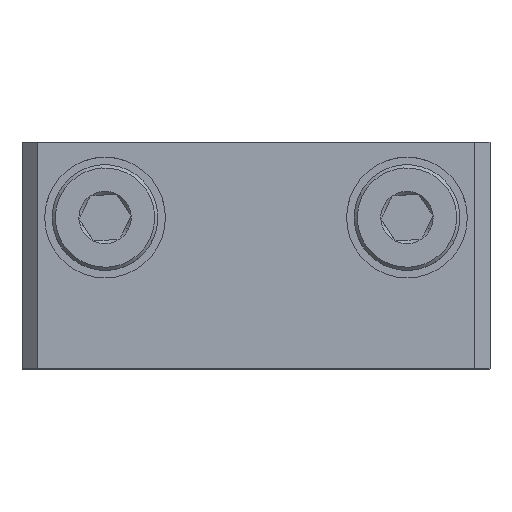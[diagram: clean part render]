
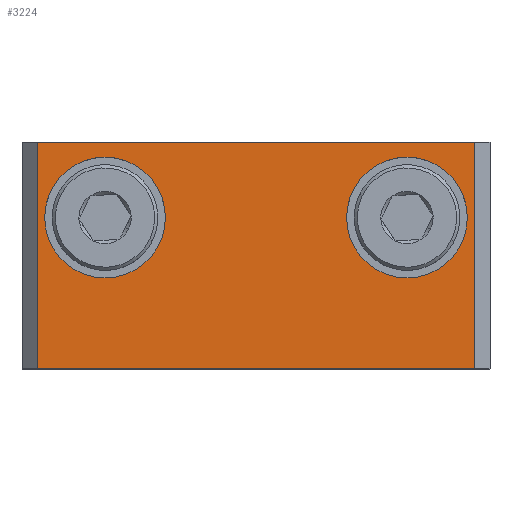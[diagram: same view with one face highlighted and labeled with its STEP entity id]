
A CAD part, top view. The second image highlights one B-rep face of the part: STEP entity #3224.
In plain terms, the highlighted planar face has unit normal (0, 0, 1).
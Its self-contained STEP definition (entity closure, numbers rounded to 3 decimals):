
#60 = DIRECTION ( 'NONE',  ( 1., 0., 0. ) ) ;
#237 = DIRECTION ( 'NONE',  ( 0., 0., 1. ) ) ;
#493 = AXIS2_PLACEMENT_3D ( 'NONE', #13915, #9450, #503 ) ;
#503 = DIRECTION ( 'NONE',  ( -1., 0., 0. ) ) ;
#537 = CARTESIAN_POINT ( 'NONE',  ( -10., 10., 4. ) ) ;
#606 = AXIS2_PLACEMENT_3D ( 'NONE', #19310, #7254, #14908 ) ;
#627 = VERTEX_POINT ( 'NONE', #15177 ) ;
#1022 = CARTESIAN_POINT ( 'NONE',  ( -15.5, 0., 4. ) ) ;
#1465 = LINE ( 'NONE', #18988, #6357 ) ;
#1542 = FACE_OUTER_BOUND ( 'NONE', #5990, .T. ) ;
#1933 = CARTESIAN_POINT ( 'NONE',  ( -14.5, 15., 4. ) ) ;
#2149 = CARTESIAN_POINT ( 'NONE',  ( -14.5, 0., 4. ) ) ;
#2316 = VERTEX_POINT ( 'NONE', #2149 ) ;
#2492 = FACE_BOUND ( 'NONE', #14941, .T. ) ;
#2536 = ORIENTED_EDGE ( 'NONE', *, *, #5219, .F. ) ;
#2602 = EDGE_CURVE ( 'NONE', #9706, #627, #13983, .T. ) ;
#3224 = ADVANCED_FACE ( 'NONE', ( #2492, #5503, #1542 ), #17069, .F. ) ;
#3725 = CARTESIAN_POINT ( 'NONE',  ( -14., 10., 4. ) ) ;
#4065 = ORIENTED_EDGE ( 'NONE', *, *, #11377, .T. ) ;
#4311 = AXIS2_PLACEMENT_3D ( 'NONE', #7616, #237, #15134 ) ;
#4460 = EDGE_CURVE ( 'NONE', #9818, #9403, #6114, .T. ) ;
#4601 = VERTEX_POINT ( 'NONE', #13780 ) ;
#5219 = EDGE_CURVE ( 'NONE', #13474, #7418, #18715, .T. ) ;
#5503 = FACE_BOUND ( 'NONE', #9443, .T. ) ;
#5551 = VECTOR ( 'NONE', #10929, 1000. ) ;
#5576 = ORIENTED_EDGE ( 'NONE', *, *, #2602, .F. ) ;
#5990 = EDGE_LOOP ( 'NONE', ( #4065, #18449, #5576, #13712 ) ) ;
#6009 = LINE ( 'NONE', #1933, #5551 ) ;
#6114 = CIRCLE ( 'NONE', #4311, 4. ) ;
#6325 = EDGE_CURVE ( 'NONE', #7418, #13474, #8098, .T. ) ;
#6357 = VECTOR ( 'NONE', #15981, 1000. ) ;
#6945 = DIRECTION ( 'NONE',  ( 1., 0., 0. ) ) ;
#6964 = ORIENTED_EDGE ( 'NONE', *, *, #13319, .F. ) ;
#7254 = DIRECTION ( 'NONE',  ( 0., 0., 1. ) ) ;
#7418 = VERTEX_POINT ( 'NONE', #12404 ) ;
#7590 = EDGE_CURVE ( 'NONE', #4601, #627, #1465, .T. ) ;
#7616 = CARTESIAN_POINT ( 'NONE',  ( 10., 10., 4. ) ) ;
#8098 = CIRCLE ( 'NONE', #606, 4. ) ;
#8319 = DIRECTION ( 'NONE',  ( 0., 0., 1. ) ) ;
#8945 = ORIENTED_EDGE ( 'NONE', *, *, #6325, .F. ) ;
#9403 = VERTEX_POINT ( 'NONE', #15612 ) ;
#9443 = EDGE_LOOP ( 'NONE', ( #6964, #17707 ) ) ;
#9450 = DIRECTION ( 'NONE',  ( 0., 0., -1. ) ) ;
#9686 = VECTOR ( 'NONE', #14477, 1000. ) ;
#9706 = VERTEX_POINT ( 'NONE', #13870 ) ;
#9818 = VERTEX_POINT ( 'NONE', #15806 ) ;
#10929 = DIRECTION ( 'NONE',  ( 0., -1., 0. ) ) ;
#11377 = EDGE_CURVE ( 'NONE', #2316, #4601, #16724, .T. ) ;
#12404 = CARTESIAN_POINT ( 'NONE',  ( -6., 10., 4. ) ) ;
#12782 = VECTOR ( 'NONE', #60, 1000. ) ;
#13319 = EDGE_CURVE ( 'NONE', #9403, #9818, #18381, .T. ) ;
#13474 = VERTEX_POINT ( 'NONE', #3725 ) ;
#13712 = ORIENTED_EDGE ( 'NONE', *, *, #18048, .T. ) ;
#13780 = CARTESIAN_POINT ( 'NONE',  ( 14.5, 0., 4. ) ) ;
#13870 = CARTESIAN_POINT ( 'NONE',  ( -14.5, 15., 4. ) ) ;
#13915 = CARTESIAN_POINT ( 'NONE',  ( -15.5, 15., 4. ) ) ;
#13983 = LINE ( 'NONE', #18001, #12782 ) ;
#14094 = AXIS2_PLACEMENT_3D ( 'NONE', #537, #18656, #17229 ) ;
#14477 = DIRECTION ( 'NONE',  ( 1., 0., 0. ) ) ;
#14908 = DIRECTION ( 'NONE',  ( 1., 0., 0. ) ) ;
#14941 = EDGE_LOOP ( 'NONE', ( #8945, #2536 ) ) ;
#15134 = DIRECTION ( 'NONE',  ( 1., 0., 0. ) ) ;
#15177 = CARTESIAN_POINT ( 'NONE',  ( 14.5, 15., 4. ) ) ;
#15612 = CARTESIAN_POINT ( 'NONE',  ( 14., 10., 4. ) ) ;
#15806 = CARTESIAN_POINT ( 'NONE',  ( 6., 10., 4. ) ) ;
#15981 = DIRECTION ( 'NONE',  ( 0., 1., 0. ) ) ;
#16724 = LINE ( 'NONE', #1022, #9686 ) ;
#17069 = PLANE ( 'NONE',  #493 ) ;
#17229 = DIRECTION ( 'NONE',  ( 1., 0., 0. ) ) ;
#17316 = CARTESIAN_POINT ( 'NONE',  ( 10., 10., 4. ) ) ;
#17333 = AXIS2_PLACEMENT_3D ( 'NONE', #17316, #8319, #6945 ) ;
#17707 = ORIENTED_EDGE ( 'NONE', *, *, #4460, .F. ) ;
#18001 = CARTESIAN_POINT ( 'NONE',  ( -15.5, 15., 4. ) ) ;
#18048 = EDGE_CURVE ( 'NONE', #9706, #2316, #6009, .T. ) ;
#18381 = CIRCLE ( 'NONE', #17333, 4. ) ;
#18449 = ORIENTED_EDGE ( 'NONE', *, *, #7590, .T. ) ;
#18656 = DIRECTION ( 'NONE',  ( 0., 0., 1. ) ) ;
#18715 = CIRCLE ( 'NONE', #14094, 4. ) ;
#18988 = CARTESIAN_POINT ( 'NONE',  ( 14.5, 15., 4. ) ) ;
#19310 = CARTESIAN_POINT ( 'NONE',  ( -10., 10., 4. ) ) ;
